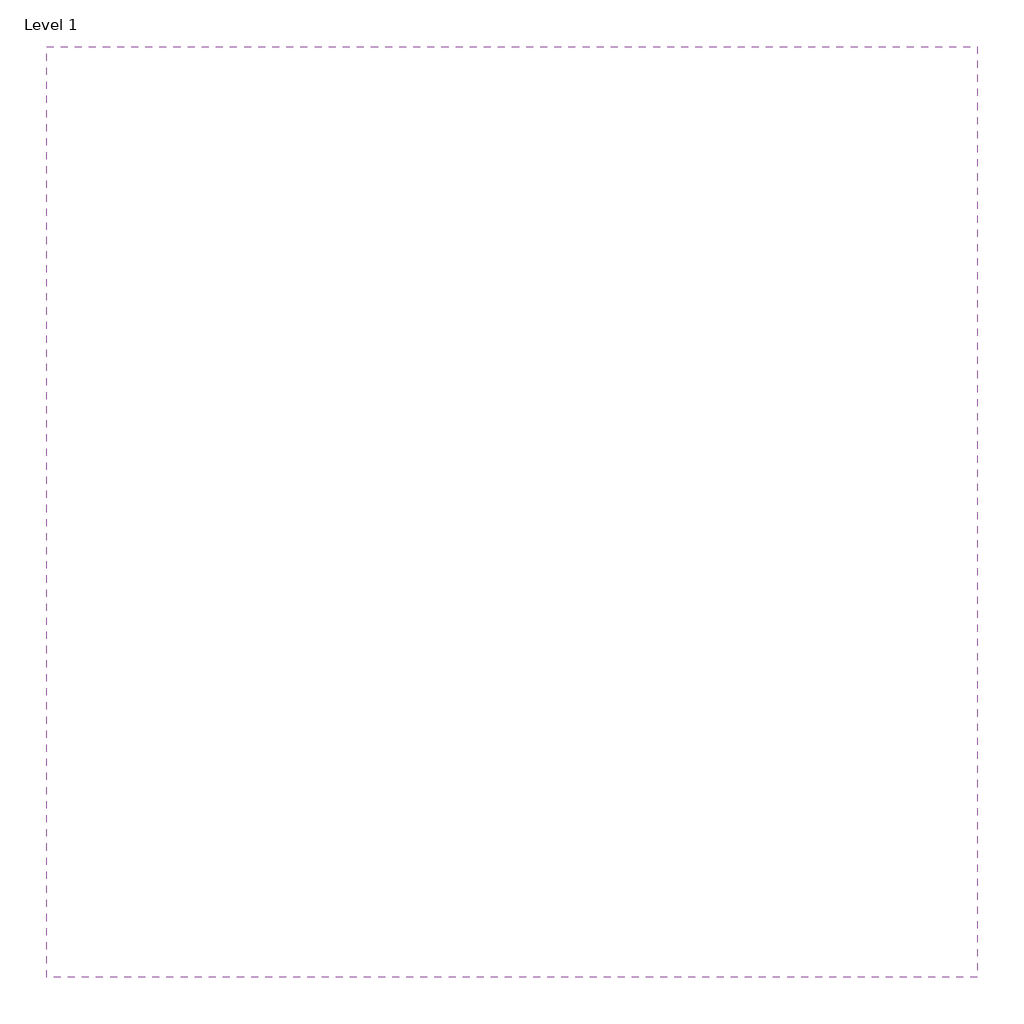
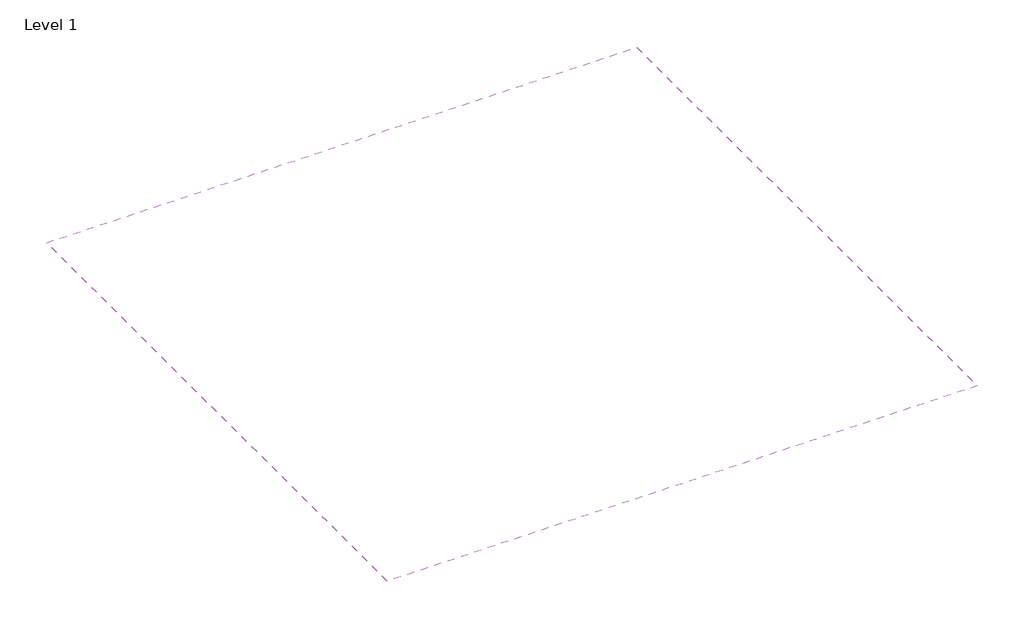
# One storey: 1 covering.
"""IFC4 building model written with IfcOpenShell, lengths in millimetres."""

from ifc_helpers import new_model, si_unit, frame, origin, place, context, project, spatial, polyline, outline, extrude, element, save

model = new_model("IFC4")

# Units and contexts
model_context = context("Model", 3, world=origin())
ifc_project = project(units=[si_unit("LENGTHUNIT", "METRE", prefix="MILLI")], contexts=[model_context])

# Site, building, storey
site = spatial("IfcSite", under=ifc_project)
building = spatial("IfcBuilding", under=site)
storey = spatial("IfcBuildingStorey", under=building, Name="Level 1", Elevation=0.0)

# Covering
placement = place(None, origin())
element("IfcCovering", 1, ObjectType="2x2 Ultima 1912 Armstrong", at=placement, inside=storey, context=model_context, shape_type="SweptSolid", body=[
    extrude(outline(polyline([(-3903.4835747, 11506.6282989), (-3903.4835747, -3123.7717011), (-18533.8835747, -3123.7717011), (-18533.8835747, 11506.6282989), (-3903.4835747, 11506.6282989)])), frame((0.0, 0.0, 2438.4), z_axis=(0.0, 0.0, 1.0), x_axis=(1.0, 0.0, 0.0)), (0.0, 0.0, 1.0), 19.05),
])

save(model, "model.ifc")
